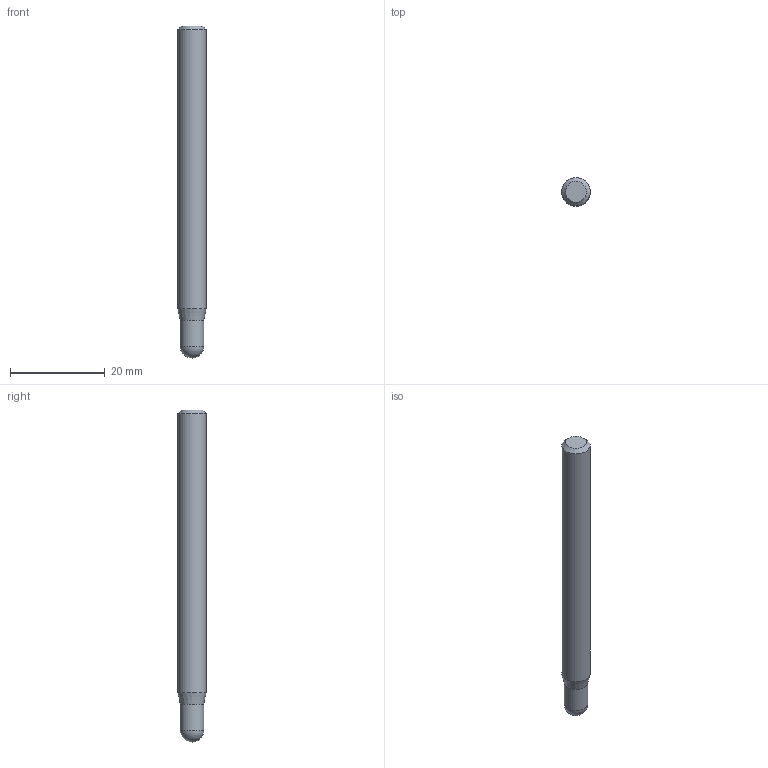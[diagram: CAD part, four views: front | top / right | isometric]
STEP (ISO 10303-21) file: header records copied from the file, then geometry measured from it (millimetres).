
FILE_DESCRIPTION((''),'2;1');
FILE_NAME('C:\Users\nsx150\AppData\Local\Temp\Mastercam 2021\98T1Q6BTT1\TEMP.step','2021-10-21T14:55:32',(''),(''),'STEP Write','Mastercam 2021 ... CNC Software, Inc.','');
FILE_SCHEMA(('AUTOMOTIVE_DESIGN'));
Length unit declared in the file: millimetre
Products named in the file (1): None
Bounding box: 6 x 6 x 70 mm (x, y, z)
Volume: 1877.8 mm3; surface area: 1349.4 mm2
Topology: 2 solids, 2 shells, 8 faces, 12 edges, 7 vertices
Faces by surface type: plane 3, cylinder 2, cone 2, sphere 1
Full cylindrical faces by diameter (mm): 5 x1, 6 x1
Entity records: 190 total; most frequent: DIRECTION 32, CARTESIAN_POINT 22, AXIS2_PLACEMENT_3D 16, ORIENTED_EDGE 12, EDGE_LOOP 12, STYLED_ITEM 11, ADVANCED_FACE 8, VERTEX_POINT 6
